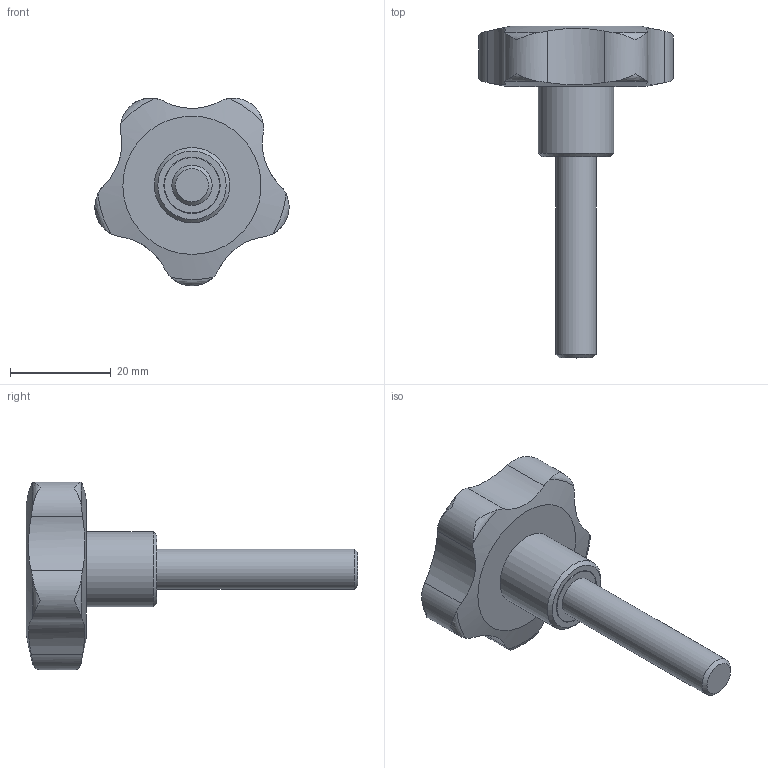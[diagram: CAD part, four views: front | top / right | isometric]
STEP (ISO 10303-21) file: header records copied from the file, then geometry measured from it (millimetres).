
FILE_DESCRIPTION( ( 'STEP AP203' ), '1' );
FILE_NAME( 'C:/Temp/Ganter_Step_05_03_2020/data/2_2/gn_5337_4/gn_5337_4_s/Star knob GN 5337.4-40-M8-40.stp', '2020-03-05T12:09:46', ( 'License CC BY-ND 4.0' ), ( 'CADENAS' ), ' ', 'PARTsolutions', ' ' );
FILE_SCHEMA( ( 'CONFIG_CONTROL_DESIGN' ) );
Length unit declared in the file: millimetre
Products named in the file (1): _Star knob GN 5337.4-40-M8-40
Bounding box: 38.62 x 66 x 37.33 mm (x, y, z)
Volume: 15483 mm3; surface area: 4856.6 mm2
Topology: 1 solids, 1 shells, 34 faces, 95 edges, 66 vertices
Faces by surface type: cylinder 14, torus 10, plane 5, cone 3, bspline 1, sphere 1
Full cylindrical faces by diameter (mm): 8 x1, 11 x1, 11.2 x1, 15 x1
Entity records: 1467 total; most frequent: CARTESIAN_POINT 679, ORIENTED_EDGE 164, DIRECTION 122, EDGE_CURVE 82, VERTEX_POINT 63, AXIS2_PLACEMENT_3D 56, B_SPLINE_CURVE_WITH_KNOTS 50, EDGE_LOOP 46
